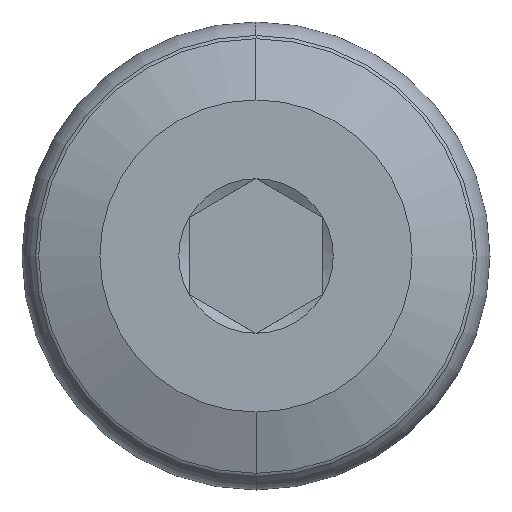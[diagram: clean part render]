
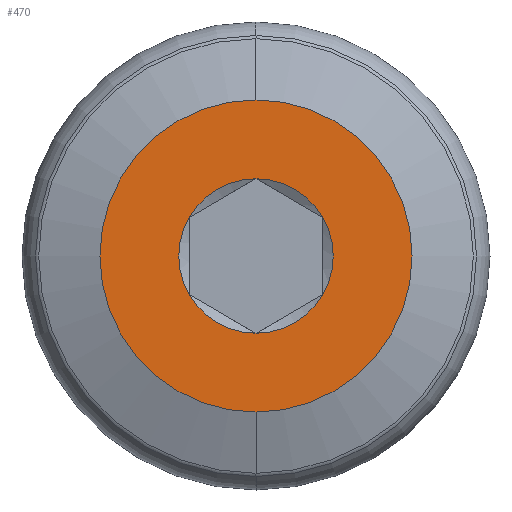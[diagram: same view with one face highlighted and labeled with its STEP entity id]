
A CAD part, left-side view. The second image highlights one B-rep face of the part: STEP entity #470.
In plain terms, the highlighted planar face has unit normal (-1, 0, 0).
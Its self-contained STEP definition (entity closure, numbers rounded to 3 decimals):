
#10 = CARTESIAN_POINT ( 'NONE',  ( 0., 0., 0. ) ) ;
#11 = DIRECTION ( 'NONE',  ( 1., 0., 0. ) ) ;
#15 = DIRECTION ( 'NONE',  ( -1., 0., 0. ) ) ;
#28 = DIRECTION ( 'NONE',  ( 0., 0., -1. ) ) ;
#31 = EDGE_CURVE ( 'NONE', #288, #474, #201, .T. ) ;
#33 = CIRCLE ( 'NONE', #440, 1.732 ) ;
#63 = EDGE_LOOP ( 'NONE', ( #249, #771, #642, #824, #226, #202 ) ) ;
#65 = CARTESIAN_POINT ( 'NONE',  ( 0., 0., 0. ) ) ;
#76 = VERTEX_POINT ( 'NONE', #671 ) ;
#77 = AXIS2_PLACEMENT_3D ( 'NONE', #800, #477, #28 ) ;
#127 = EDGE_LOOP ( 'NONE', ( #734, #259 ) ) ;
#128 = CARTESIAN_POINT ( 'NONE',  ( 0., -1.5, 0.866 ) ) ;
#134 = EDGE_CURVE ( 'NONE', #767, #288, #629, .T. ) ;
#148 = FACE_OUTER_BOUND ( 'NONE', #127, .T. ) ;
#153 = DIRECTION ( 'NONE',  ( 0., 0., -1. ) ) ;
#158 = AXIS2_PLACEMENT_3D ( 'NONE', #65, #507, #449 ) ;
#161 = DIRECTION ( 'NONE',  ( 0., 0., -1. ) ) ;
#191 = CARTESIAN_POINT ( 'NONE',  ( 0., 0., 0. ) ) ;
#201 = CIRCLE ( 'NONE', #77, 1.732 ) ;
#202 = ORIENTED_EDGE ( 'NONE', *, *, #720, .T. ) ;
#218 = CARTESIAN_POINT ( 'NONE',  ( 0., 0., 0. ) ) ;
#225 = DIRECTION ( 'NONE',  ( 0., 0., 1. ) ) ;
#226 = ORIENTED_EDGE ( 'NONE', *, *, #823, .T. ) ;
#246 = EDGE_CURVE ( 'NONE', #366, #76, #669, .T. ) ;
#249 = ORIENTED_EDGE ( 'NONE', *, *, #550, .T. ) ;
#259 = ORIENTED_EDGE ( 'NONE', *, *, #422, .F. ) ;
#273 = FACE_BOUND ( 'NONE', #63, .T. ) ;
#279 = CARTESIAN_POINT ( 'NONE',  ( 0., 3.5, 0. ) ) ;
#283 = DIRECTION ( 'NONE',  ( 1., 0., 0. ) ) ;
#288 = VERTEX_POINT ( 'NONE', #514 ) ;
#291 = CIRCLE ( 'NONE', #387, 1.732 ) ;
#312 = CARTESIAN_POINT ( 'NONE',  ( 0., 1.5, 0.866 ) ) ;
#320 = AXIS2_PLACEMENT_3D ( 'NONE', #692, #750, #548 ) ;
#330 = VERTEX_POINT ( 'NONE', #445 ) ;
#343 = DIRECTION ( 'NONE',  ( 0., 0., -1. ) ) ;
#349 = CIRCLE ( 'NONE', #710, 1.732 ) ;
#366 = VERTEX_POINT ( 'NONE', #454 ) ;
#372 = DIRECTION ( 'NONE',  ( 0., 0., -1. ) ) ;
#387 = AXIS2_PLACEMENT_3D ( 'NONE', #191, #388, #439 ) ;
#388 = DIRECTION ( 'NONE',  ( 1., 0., 0. ) ) ;
#411 = EDGE_CURVE ( 'NONE', #580, #767, #33, .T. ) ;
#422 = EDGE_CURVE ( 'NONE', #76, #366, #490, .T. ) ;
#435 = CARTESIAN_POINT ( 'NONE',  ( 0., 0., 0. ) ) ;
#439 = DIRECTION ( 'NONE',  ( 0., 0., -1. ) ) ;
#440 = AXIS2_PLACEMENT_3D ( 'NONE', #218, #11, #161 ) ;
#445 = CARTESIAN_POINT ( 'NONE',  ( 0., 1.5, -0.866 ) ) ;
#449 = DIRECTION ( 'NONE',  ( 0., 0., -1. ) ) ;
#454 = CARTESIAN_POINT ( 'NONE',  ( 0., 0., -3.5 ) ) ;
#470 = ADVANCED_FACE ( 'NONE', ( #273, #148 ), #795, .T. ) ;
#472 = CARTESIAN_POINT ( 'NONE',  ( 0., 0., -1.732 ) ) ;
#474 = VERTEX_POINT ( 'NONE', #472 ) ;
#477 = DIRECTION ( 'NONE',  ( 1., 0., 0. ) ) ;
#479 = CARTESIAN_POINT ( 'NONE',  ( 0., 0., 0. ) ) ;
#490 = CIRCLE ( 'NONE', #502, 3.5 ) ;
#502 = AXIS2_PLACEMENT_3D ( 'NONE', #479, #283, #343 ) ;
#507 = DIRECTION ( 'NONE',  ( 1., 0., 0. ) ) ;
#514 = CARTESIAN_POINT ( 'NONE',  ( 0., -1.5, -0.866 ) ) ;
#547 = CARTESIAN_POINT ( 'NONE',  ( 0., 0., 1.732 ) ) ;
#548 = DIRECTION ( 'NONE',  ( 0., 0., -1. ) ) ;
#550 = EDGE_CURVE ( 'NONE', #807, #580, #599, .T. ) ;
#580 = VERTEX_POINT ( 'NONE', #547 ) ;
#599 = CIRCLE ( 'NONE', #829, 1.732 ) ;
#609 = DIRECTION ( 'NONE',  ( 1., 0., 0. ) ) ;
#629 = CIRCLE ( 'NONE', #320, 1.732 ) ;
#642 = ORIENTED_EDGE ( 'NONE', *, *, #134, .T. ) ;
#657 = DIRECTION ( 'NONE',  ( 1., 0., 0. ) ) ;
#669 = CIRCLE ( 'NONE', #158, 3.5 ) ;
#671 = CARTESIAN_POINT ( 'NONE',  ( 0., 0., 3.5 ) ) ;
#692 = CARTESIAN_POINT ( 'NONE',  ( 0., 0., 0. ) ) ;
#710 = AXIS2_PLACEMENT_3D ( 'NONE', #10, #657, #153 ) ;
#720 = EDGE_CURVE ( 'NONE', #330, #807, #291, .T. ) ;
#734 = ORIENTED_EDGE ( 'NONE', *, *, #246, .F. ) ;
#750 = DIRECTION ( 'NONE',  ( 1., 0., 0. ) ) ;
#764 = AXIS2_PLACEMENT_3D ( 'NONE', #279, #15, #225 ) ;
#767 = VERTEX_POINT ( 'NONE', #128 ) ;
#771 = ORIENTED_EDGE ( 'NONE', *, *, #411, .T. ) ;
#795 = PLANE ( 'NONE',  #764 ) ;
#800 = CARTESIAN_POINT ( 'NONE',  ( 0., 0., 0. ) ) ;
#807 = VERTEX_POINT ( 'NONE', #312 ) ;
#823 = EDGE_CURVE ( 'NONE', #474, #330, #349, .T. ) ;
#824 = ORIENTED_EDGE ( 'NONE', *, *, #31, .T. ) ;
#829 = AXIS2_PLACEMENT_3D ( 'NONE', #435, #609, #372 ) ;
